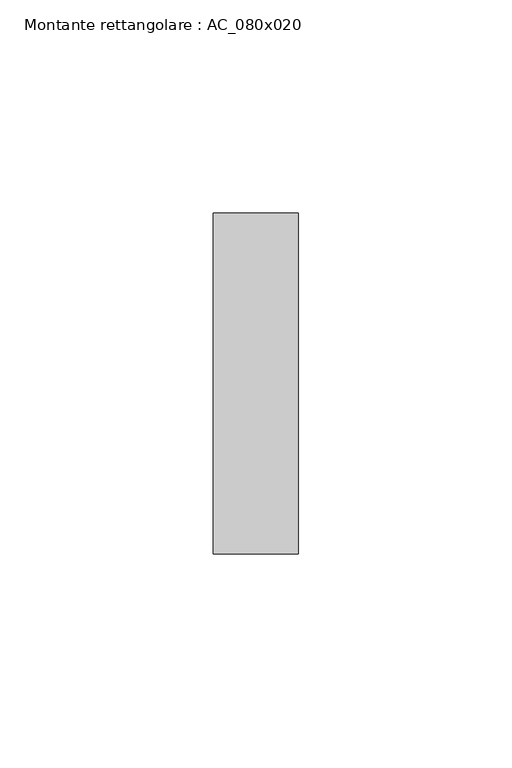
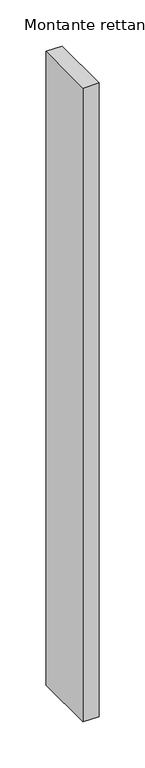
"""IFC4 building model written with IfcOpenShell, lengths in millimetres: member geometry, Montante rettangolare : AC_080x020."""

from ifc_helpers import new_model, si_unit, frame, origin, place, context, project, spatial, polyline, outline, extrude, source, transform, mapped, element, save


def montante_rettangolare_ac_080x020_4c6ad7e7(model_context):
    return source(origin(), model_context, "Body", "SweptSolid", [
        extrude(outline(polyline([(0.0, 40.0), (0.0, -40.0), (-20.0, -40.0), (-20.0, 40.0), (0.0, 40.0)])), frame((0.0, 0.0, -837.9226375), z_axis=(0.0, 0.0, 1.0), x_axis=(1.0, 0.0, 0.0)), (0.0, 0.0, 1.0), 837.9226375),
    ])


if __name__ == "__main__":
    model = new_model("IFC4")
    model_context = context("Model", 3, world=origin())
    ifc_project = project(units=[si_unit("LENGTHUNIT", "METRE", prefix="MILLI")], contexts=[model_context])
    site = spatial("IfcSite", under=ifc_project)
    building = spatial("IfcBuilding", under=site)
    placement = place(None, origin())
    montante_rettangolare_ac_080x020_shape = montante_rettangolare_ac_080x020_4c6ad7e7(model_context)
    element("IfcMember", 1, ObjectType="Montante rettangolare : AC_080x020", at=placement, inside=building, context=model_context, shape_type="MappedRepresentation", body=[
        mapped(montante_rettangolare_ac_080x020_shape, transform((0.0, 0.0, 0.0), x_axis=(1.0, 0.0, 0.0), y_axis=(0.0, 1.0, 0.0), z_axis=(0.0, 0.0, 1.0))),
    ])
    save(model, "model.ifc")
